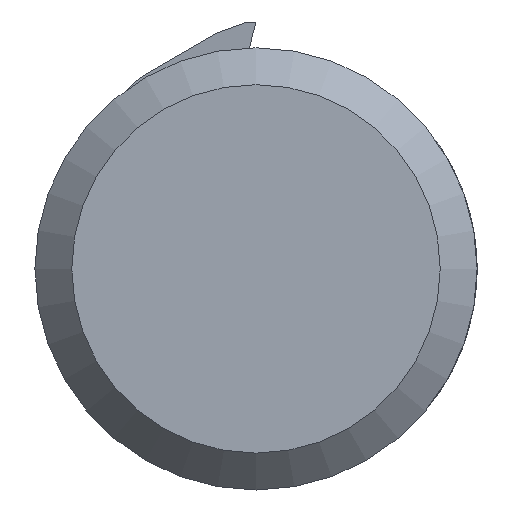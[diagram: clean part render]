
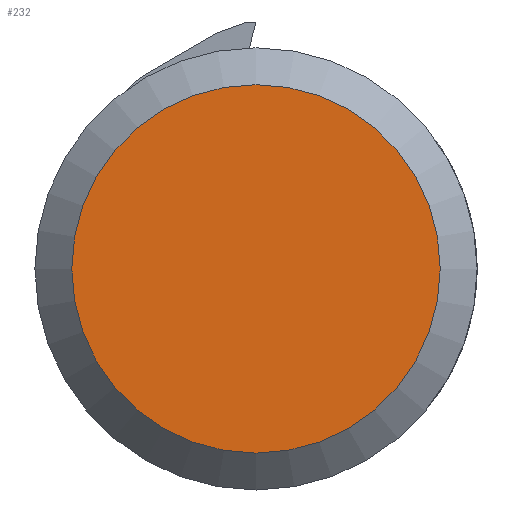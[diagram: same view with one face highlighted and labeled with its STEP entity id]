
A CAD part, front view. The second image highlights one B-rep face of the part: STEP entity #232.
In plain terms, the highlighted planar face has unit normal (0, -1, 0).
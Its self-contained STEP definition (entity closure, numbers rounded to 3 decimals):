
#232=ADVANCED_FACE('',(#282),#257,.F.);
#257=PLANE('',#616);
#282=FACE_OUTER_BOUND('',#316,.T.);
#316=EDGE_LOOP('',(#433));
#433=ORIENTED_EDGE('',*,*,#548,.T.);
#489=VERTEX_POINT('',#900);
#548=EDGE_CURVE('',#489,#489,#565,.T.);
#565=CIRCLE('',#615,5.);
#615=AXIS2_PLACEMENT_3D('',#899,#754,#755);
#616=AXIS2_PLACEMENT_3D('',#901,#756,#757);
#754=DIRECTION('',(0.,-1.,0.));
#755=DIRECTION('',(0.,0.,1.));
#756=DIRECTION('',(0.,1.,0.));
#757=DIRECTION('',(0.,0.,1.));
#899=CARTESIAN_POINT('',(0.,-111.65,0.));
#900=CARTESIAN_POINT('',(0.,-111.65,5.));
#901=CARTESIAN_POINT('',(6.,-111.65,0.));
